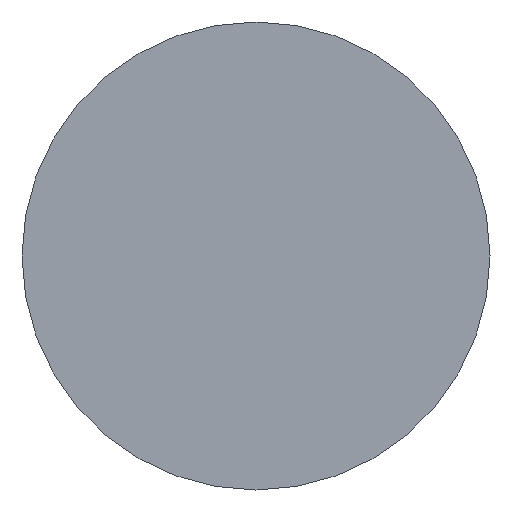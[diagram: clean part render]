
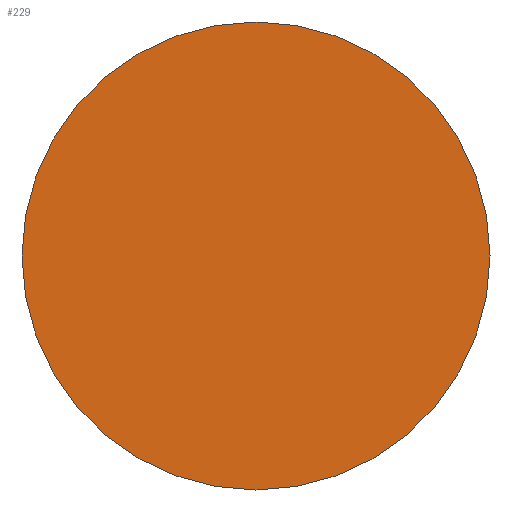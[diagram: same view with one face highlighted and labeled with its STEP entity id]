
A CAD part, front view. The second image highlights one B-rep face of the part: STEP entity #229.
In plain terms, the highlighted planar face has unit normal (0, -1, 0).
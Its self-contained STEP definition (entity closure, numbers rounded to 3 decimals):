
#19=PLANE('',#279);
#39=FACE_OUTER_BOUND('',#55,.T.);
#55=EDGE_LOOP('',(#205));
#94=CIRCLE('',#280,83.);
#115=VERTEX_POINT('',#1512);
#146=EDGE_CURVE('',#115,#115,#94,.T.);
#205=ORIENTED_EDGE('',*,*,#146,.F.);
#229=ADVANCED_FACE('',(#39),#19,.T.);
#279=AXIS2_PLACEMENT_3D('',#1511,#336,#337);
#280=AXIS2_PLACEMENT_3D('',#1513,#338,#339);
#336=DIRECTION('center_axis',(0.,-1.,0.));
#337=DIRECTION('ref_axis',(0.,0.,-1.));
#338=DIRECTION('center_axis',(0.,1.,0.));
#339=DIRECTION('ref_axis',(1.,0.,0.));
#1511=CARTESIAN_POINT('Origin',(0.,0.,83.));
#1512=CARTESIAN_POINT('',(0.,0.,-83.));
#1513=CARTESIAN_POINT('Origin',(0.,0.,0.));
